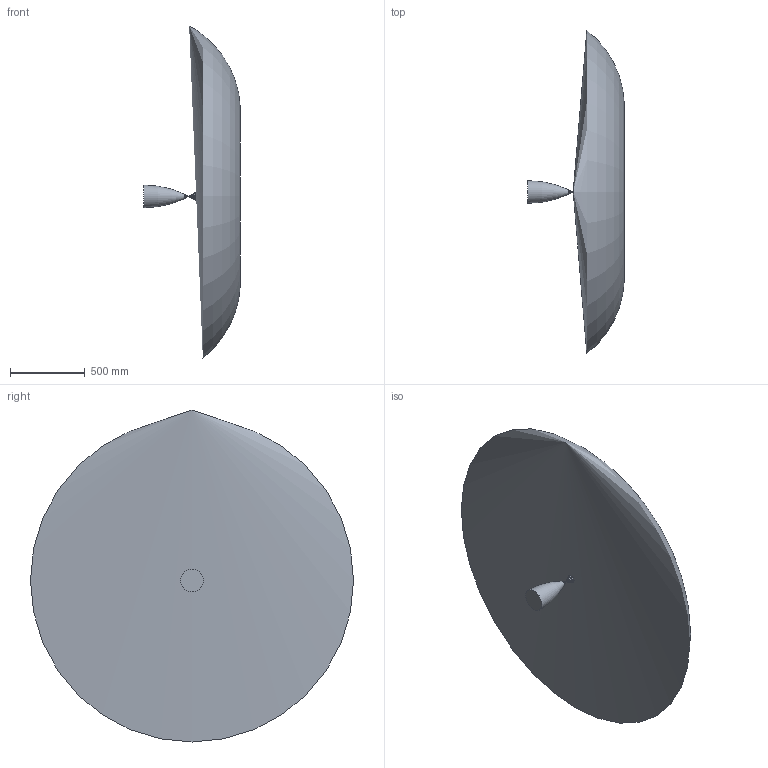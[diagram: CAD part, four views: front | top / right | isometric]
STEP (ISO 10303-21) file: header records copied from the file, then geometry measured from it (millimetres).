
FILE_DESCRIPTION (( 'STEP AP214' ), '1' );
FILE_NAME ('TangentOgive.STEP', '2022-10-26T13:49:29', ( '' ), ( '' ), 'SwSTEP 2.0', 'SolidWorks 2020', '' );
FILE_SCHEMA (( 'AUTOMOTIVE_DESIGN' ));
Length unit declared in the file: inch
Products named in the file (1): TangentOgive
Bounding box: 647.28 x 2167.69 x 2226.85 mm (x, y, z)
Volume: 1347171592.6 mm3; surface area: 5149895.1 mm2
Topology: 1 solids, 1 shells, 2 faces, 3 edges, 3 vertices
Faces by surface type: plane 1, torus 1
Entity records: 74 total; most frequent: DIRECTION 8, CARTESIAN_POINT 5, AXIS2_PLACEMENT_3D 4, LENGTH_MEASURE_WITH_UNIT 3, DIMENSIONAL_EXPONENTS 3, UNCERTAINTY_MEASURE_WITH_UNIT 3, ADVANCED_FACE 2, STYLED_ITEM 2
